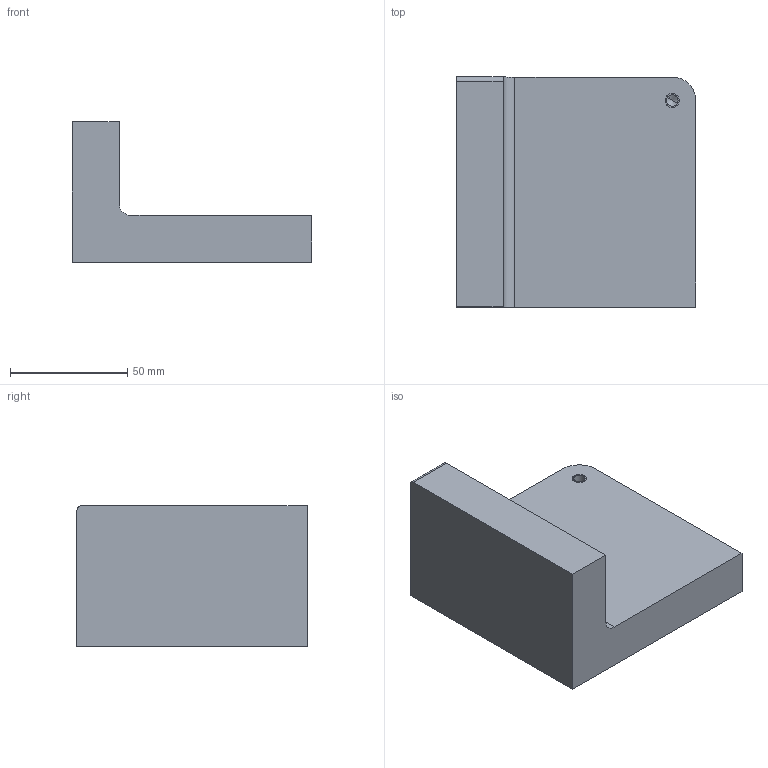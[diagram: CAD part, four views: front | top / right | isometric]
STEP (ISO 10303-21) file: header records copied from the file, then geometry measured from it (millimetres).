
FILE_DESCRIPTION(('CATIA V5 STEP Exchange'),'2;1');
FILE_NAME('C:\_Andres\UNIVERSIDAD\IQS\ASIGNATURAS\DAO\EXF\EXF-16172c\2inicio\Barrenechea_Bonifacio_Ej01_v2.stp','2017-03-05T15:11:03+00:00',('none'),('none'),'CATIA Version 5-6 Release 2014 SP1 HF18','CATIA V5 STEP AP203','none');
FILE_SCHEMA(('CONFIG_CONTROL_DESIGN'));
Length unit declared in the file: millimetre
Products named in the file (1): Barrenechea_Bonifacio_Ej01_v2
Bounding box: 102 x 98 x 60 mm (x, y, z)
Volume: 278086.6 mm3; surface area: 37561.1 mm2
Topology: 1 solids, 2 shells, 17 faces, 43 edges, 27 vertices
Faces by surface type: plane 8, cylinder 7, cone 2
Entity records: 513 total; most frequent: CARTESIAN_POINT 83, ORIENTED_EDGE 78, DIRECTION 69, EDGE_CURVE 41, AXIS2_PLACEMENT_3D 29, VECTOR 27, LINE 27, VERTEX_POINT 27
